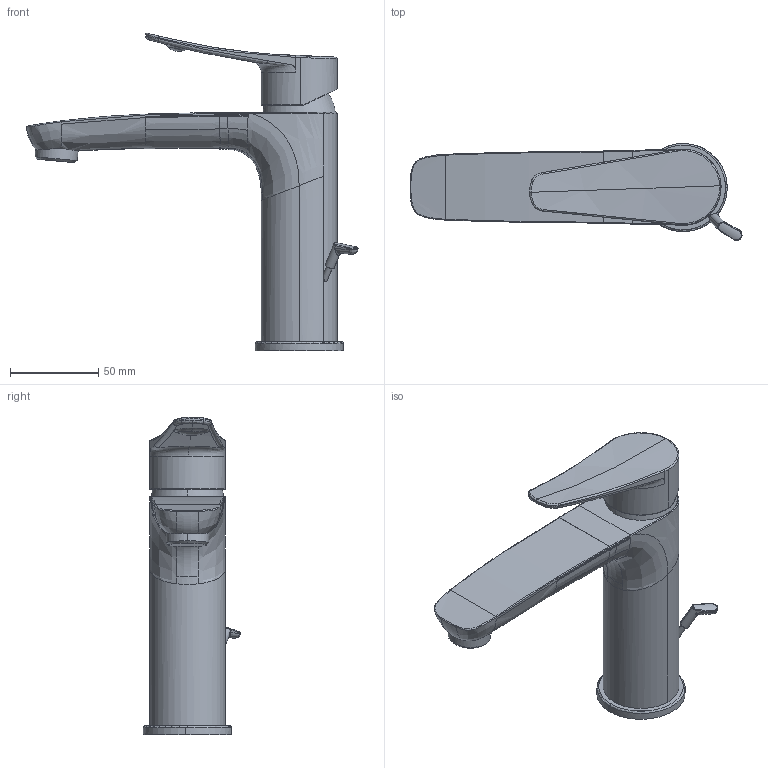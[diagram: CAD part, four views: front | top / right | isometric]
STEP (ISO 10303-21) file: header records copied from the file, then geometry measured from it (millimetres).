
FILE_DESCRIPTION((''),'2;1');
FILE_NAME('12_401_042_XXX','2018-02-21T',('ES997'),(''),'CREO PARAMETRIC BY PTC INC, 2016260','CREO PARAMETRIC BY PTC INC, 2016260','');
FILE_SCHEMA(('CONFIG_CONTROL_DESIGN'));
Length unit declared in the file: millimetre
Products named in the file (1): 12_401_042_XXX
Bounding box: 188.17 x 55.1 x 179.87 mm (x, y, z)
Volume: 345365.9 mm3; surface area: 45430.4 mm2
Topology: 1 solids, 1 shells, 192 faces, 513 edges, 324 vertices
Faces by surface type: bspline 111, cylinder 28, plane 24, torus 15, cone 5, extrusion 5, sphere 4
Entity records: 60845 total; most frequent: CARTESIAN_POINT 57045, ORIENTED_EDGE 1020, EDGE_CURVE 510, DIRECTION 401, B_SPLINE_CURVE_WITH_KNOTS 359, VERTEX_POINT 324, EDGE_LOOP 196, FACE_OUTER_BOUND 192
